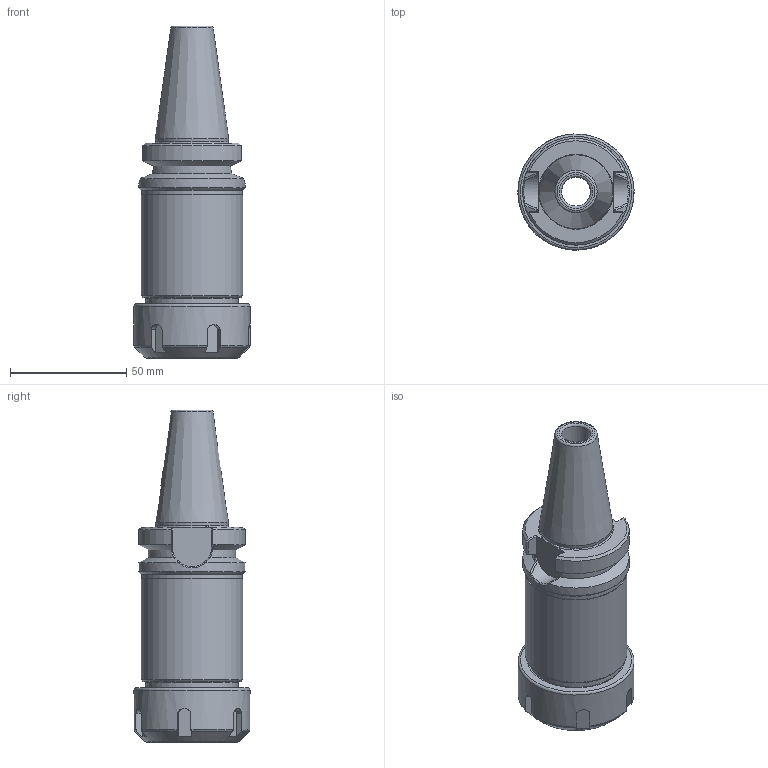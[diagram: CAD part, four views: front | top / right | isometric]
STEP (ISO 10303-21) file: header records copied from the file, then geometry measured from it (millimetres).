
FILE_DESCRIPTION(/* description */ (''),/* implementation_level */ '2;1');
FILE_NAME(/* name */ 'Z:\Проектный отдел\Алена\Патроны\BT30-ER32-100\BT30-ER32-100.stp',/* time_stamp */ '2023-12-22T11:38:04+03:00',/* author */ ('User'),/* organization */ (''),/* preprocessor_version */ 'ST-DEVELOPER v18',/* originating_system */ 'Autodesk Inventor 2020',/* authorisation */ '');
FILE_SCHEMA (('AUTOMOTIVE_DESIGN { 1 0 10303 214 3 1 1 }'));
Length unit declared in the file: millimetre
Products named in the file (3): BT30-ER32-100; BT30-ER32-100_1; Крышка
Assembly tree (2 placements, depth 2):
  BT30-ER32-100
    BT30-ER32-100_1
    Крышка
Bounding box: 49.99 x 49.97 x 143 mm (x, y, z)
Volume: 128734 mm3; surface area: 33862.7 mm2
Topology: 2 solids, 2 shells, 128 faces, 381 edges, 262 vertices
Faces by surface type: plane 55, bspline 22, cylinder 21, cone 16, torus 14
Full cylindrical faces by diameter (mm): 12.5 x1, 16.5 x1, 20.5 x1, 39.8 x1, 40 x1, 43.5 x1, 43.9 x1, 45.9 x1, 50 x1
Entity records: 5141 total; most frequent: CARTESIAN_POINT 1809, ORIENTED_EDGE 762, DIRECTION 579, EDGE_CURVE 381, VERTEX_POINT 262, AXIS2_PLACEMENT_3D 232, EDGE_LOOP 137, B_SPLINE_CURVE_WITH_KNOTS 129
